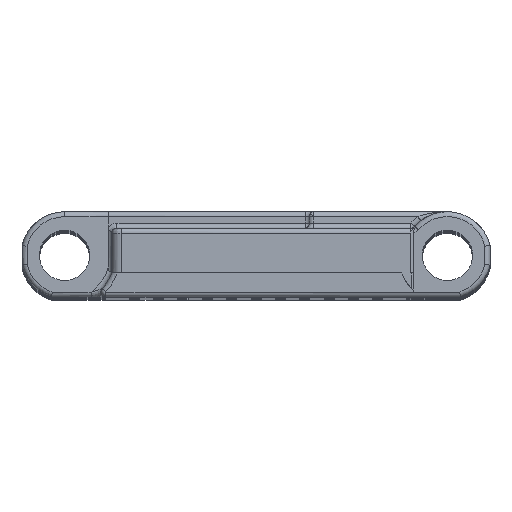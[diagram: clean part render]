
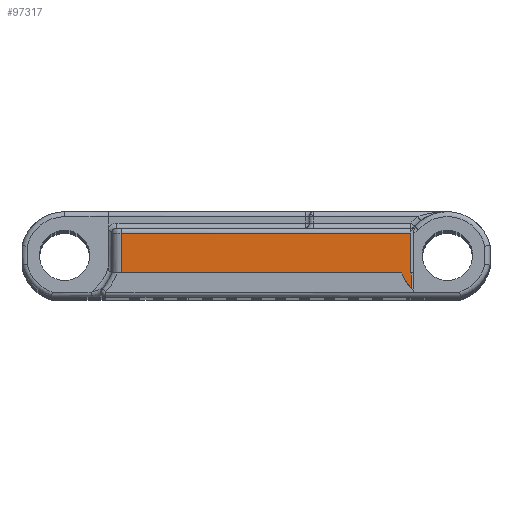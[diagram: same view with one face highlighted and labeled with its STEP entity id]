
A CAD part, top view. The second image highlights one B-rep face of the part: STEP entity #97317.
In plain terms, the highlighted planar face has unit normal (0, 0, 1).
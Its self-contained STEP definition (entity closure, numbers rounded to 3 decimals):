
#27483=DIRECTION('',(-1.,0.,0.));
#27484=VECTOR('',#27483,0.05);
#27485=CARTESIAN_POINT('',(15.45,-1.75,95.25));
#27486=LINE('',#27485,#27484);
#27487=DIRECTION('',(0.,1.,0.));
#27488=VECTOR('',#27487,1.585);
#27489=CARTESIAN_POINT('',(15.45,-3.335,95.25));
#27490=LINE('',#27489,#27488);
#27491=CARTESIAN_POINT('',(19.25,0.,95.25));
#27492=DIRECTION('',(0.,0.,1.));
#27493=DIRECTION('',(-0.938,-0.346,0.));
#27494=AXIS2_PLACEMENT_3D('',#27491,#27492,#27493);
#27496=DIRECTION('',(0.,1.,0.));
#27497=VECTOR('',#27496,3.963);
#27498=CARTESIAN_POINT('',(-13.366,-1.75,95.25));
#27499=LINE('',#27498,#27497);
#27500=DIRECTION('',(-1.,0.,0.));
#27501=VECTOR('',#27500,28.766);
#27502=CARTESIAN_POINT('',(15.4,2.213,95.25));
#27503=LINE('',#27502,#27501);
#27559=DIRECTION('',(0.,1.,0.));
#27560=VECTOR('',#27559,3.963);
#27561=CARTESIAN_POINT('',(15.4,-1.75,95.25));
#27562=LINE('',#27561,#27560);
#27589=DIRECTION('',(1.,0.,0.));
#27590=VECTOR('',#27589,27.873);
#27591=CARTESIAN_POINT('',(-13.366,-1.75,95.25));
#27592=LINE('',#27591,#27590);
#55418=CARTESIAN_POINT('',(-13.366,-1.75,95.25));
#55419=VERTEX_POINT('',#55418);
#55898=CARTESIAN_POINT('',(-13.366,2.213,95.25));
#55900=VERTEX_POINT('',#55898);
#55906=CARTESIAN_POINT('',(15.4,2.213,95.25));
#55907=VERTEX_POINT('',#55906);
#60861=CARTESIAN_POINT('',(14.507,-1.75,95.25));
#60862=VERTEX_POINT('',#60861);
#60863=CARTESIAN_POINT('',(15.4,-1.75,95.25));
#60864=VERTEX_POINT('',#60863);
#60875=CARTESIAN_POINT('',(15.45,-3.335,95.25));
#60876=CARTESIAN_POINT('',(15.45,-1.75,95.25));
#60877=VERTEX_POINT('',#60875);
#60878=VERTEX_POINT('',#60876);
#97297=CARTESIAN_POINT('',(-13.366,-1.75,95.25));
#97298=DIRECTION('',(0.,0.,1.));
#97299=DIRECTION('',(1.,0.,0.));
#97300=AXIS2_PLACEMENT_3D('',#97297,#97298,#97299);
#97301=PLANE('',#97300);
#97303=ORIENTED_EDGE('',*,*,#97302,.F.);
#97305=ORIENTED_EDGE('',*,*,#97304,.F.);
#97307=ORIENTED_EDGE('',*,*,#97306,.F.);
#97309=ORIENTED_EDGE('',*,*,#97308,.F.);
#97311=ORIENTED_EDGE('',*,*,#97310,.F.);
#97313=ORIENTED_EDGE('',*,*,#97312,.F.);
#97314=ORIENTED_EDGE('',*,*,#97288,.T.);
#97315=EDGE_LOOP('',(#97303,#97305,#97307,#97309,#97311,#97313,#97314));
#97316=FACE_OUTER_BOUND('',#97315,.F.);
#27495=CIRCLE('',#27494,5.056);
#97288=EDGE_CURVE('',#55419,#55900,#27499,.T.);
#97302=EDGE_CURVE('',#55907,#55900,#27503,.T.);
#97304=EDGE_CURVE('',#60864,#55907,#27562,.T.);
#97306=EDGE_CURVE('',#60878,#60864,#27486,.T.);
#97308=EDGE_CURVE('',#60877,#60878,#27490,.T.);
#97310=EDGE_CURVE('',#60862,#60877,#27495,.T.);
#97312=EDGE_CURVE('',#55419,#60862,#27592,.T.);
#97317=ADVANCED_FACE('',(#97316),#97301,.T.);
